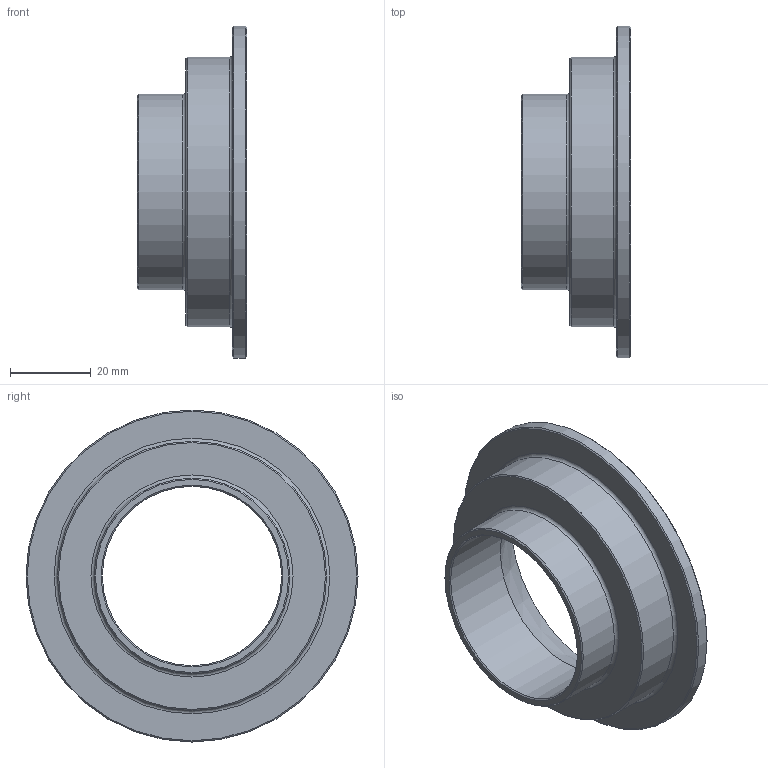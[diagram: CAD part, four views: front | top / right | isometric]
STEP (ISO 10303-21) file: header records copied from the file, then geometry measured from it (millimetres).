
FILE_DESCRIPTION(/* description */ (''),/* implementation_level */ '2;1');
FILE_NAME(/* name */ 'C:\Users\cad\Desktop\Zeichnungen neu von Ralph\3D_Kupplung_R666-SE\3D_R666-SE-48.3-DN80_17113378.stp',/* time_stamp */ '2021-06-18T09:17:57+02:00',/* author */ ('cad'),/* organization */ (''),/* preprocessor_version */ 'ST-DEVELOPER v18.1',/* originating_system */ 'Autodesk Inventor 2022',/* authorisation */ '');
FILE_SCHEMA (('AUTOMOTIVE_DESIGN { 1 0 10303 214 3 1 1 }'));
Length unit declared in the file: millimetre
Products named in the file (1): 3D_R666-SE-48.3-DN80_17113378
Bounding box: 27 x 82 x 82 mm (x, y, z)
Volume: 35000.6 mm3; surface area: 15601.5 mm2
Topology: 1 solids, 1 shells, 16 faces, 35 edges, 23 vertices
Faces by surface type: cone 6, cylinder 4, plane 4, torus 2
Full cylindrical faces by diameter (mm): 44.3 x1, 48.3 x1, 66.5 x1, 82 x1
Entity records: 501 total; most frequent: DIRECTION 94, CARTESIAN_POINT 75, ORIENTED_EDGE 70, AXIS2_PLACEMENT_3D 42, EDGE_CURVE 35, CIRCLE 25, VERTEX_POINT 23, EDGE_LOOP 20
